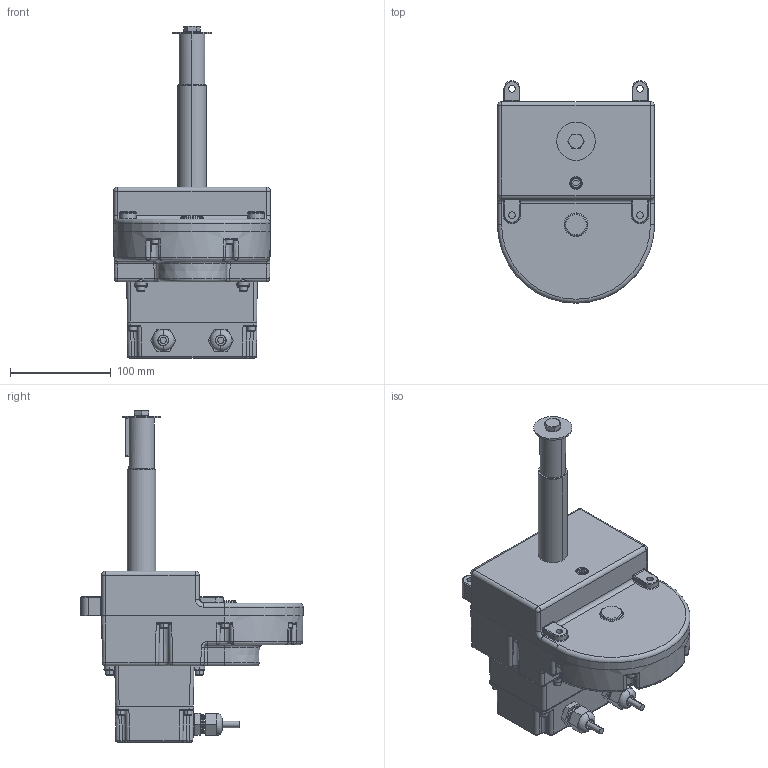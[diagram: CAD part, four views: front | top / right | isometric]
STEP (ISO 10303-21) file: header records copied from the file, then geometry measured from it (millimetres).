
FILE_DESCRIPTION (( 'STEP AP214' ), '1' );
FILE_NAME ('7172.STEP', '2019-11-25T20:01:14', ( '' ), ( '' ), 'SwSTEP 2.0', 'SolidWorks 2019', '' );
FILE_SCHEMA (( 'AUTOMOTIVE_DESIGN' ));
Length unit declared in the file: inch
Products named in the file (1): 7172
Bounding box: 155.57 x 220.6 x 329.3 mm (x, y, z)
Surface area: 188404.9 mm2 (no closed solid volume)
Topology: 0 solids, 42 shells, 781 faces, 2188 edges, 1385 vertices
Faces by surface type: plane 235, cylinder 227, cone 131, bspline 100, torus 62, sphere 26
Entity records: 38194 total; most frequent: CARTESIAN_POINT 9087, DIRECTION 3999, ORIENTED_EDGE 3719, EDGE_CURVE 2132, AXIS2_PLACEMENT_3D 1524, VERTEX_POINT 1385, VECTOR 951, LINE 951
